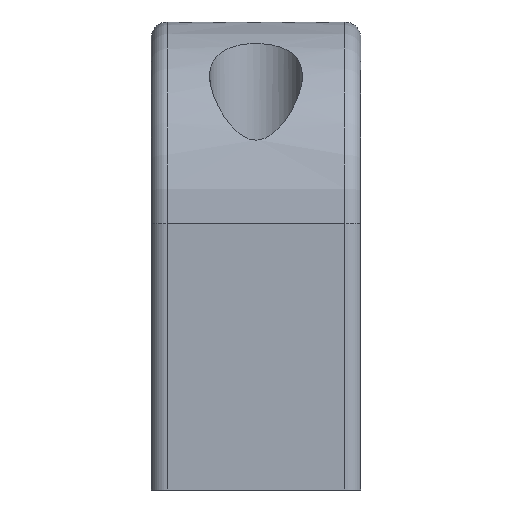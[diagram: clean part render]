
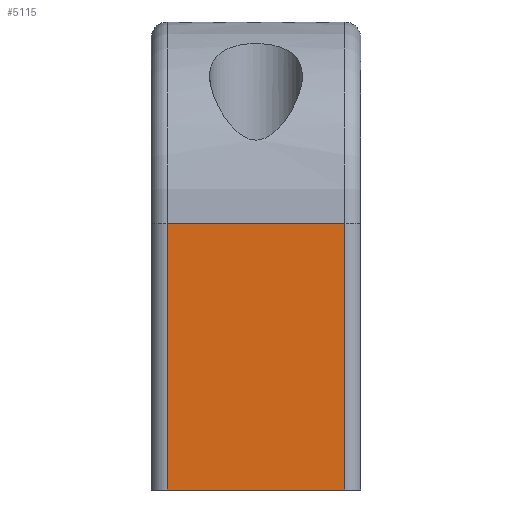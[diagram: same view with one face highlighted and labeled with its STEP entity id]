
A CAD part, front view. The second image highlights one B-rep face of the part: STEP entity #5115.
In plain terms, the highlighted planar face has unit normal (0, -1, 0).
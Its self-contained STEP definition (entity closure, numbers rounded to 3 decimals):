
#100 = VERTEX_POINT ( 'NONE', #4040 ) ;
#101 = VERTEX_POINT ( 'NONE', #4039 ) ;
#116 = VERTEX_POINT ( 'NONE', #4014 ) ;
#122 = VERTEX_POINT ( 'NONE', #4005 ) ;
#304 = DIRECTION ( 'NONE',  ( -1., 0., 0. ) ) ;
#306 = CARTESIAN_POINT ( 'NONE',  ( 13., -97.5, -25. ) ) ;
#493 = DIRECTION ( 'NONE',  ( 0., 0., -1. ) ) ;
#494 = CARTESIAN_POINT ( 'NONE',  ( 11., -97.5, -25. ) ) ;
#507 = DIRECTION ( 'NONE',  ( 0., 0., 1. ) ) ;
#509 = CARTESIAN_POINT ( 'NONE',  ( -11., -97.5, -25. ) ) ;
#532 = DIRECTION ( 'NONE',  ( -1., 0., 0. ) ) ;
#533 = CARTESIAN_POINT ( 'NONE',  ( 13., -97.5, -58. ) ) ;
#1033 = LINE ( 'NONE', #306, #1034 ) ;
#1034 = VECTOR ( 'NONE', #304, 1000. ) ;
#1060 = LINE ( 'NONE', #533, #1062 ) ;
#1062 = VECTOR ( 'NONE', #532, 1000. ) ;
#1067 = LINE ( 'NONE', #509, #1069 ) ;
#1068 = LINE ( 'NONE', #494, #1071 ) ;
#1069 = VECTOR ( 'NONE', #507, 1000. ) ;
#1071 = VECTOR ( 'NONE', #493, 1000. ) ;
#1246 = FACE_OUTER_BOUND ( 'NONE', #4469, .T. ) ;
#1448 = AXIS2_PLACEMENT_3D ( 'NONE', #2823, #2806, #2804 ) ;
#2804 = DIRECTION ( 'NONE',  ( 0., 0., -1. ) ) ;
#2806 = DIRECTION ( 'NONE',  ( 0., 1., 0. ) ) ;
#2816 = PLANE ( 'NONE',  #1448 ) ;
#2823 = CARTESIAN_POINT ( 'NONE',  ( 13., -97.5, -25. ) ) ;
#3238 = EDGE_CURVE ( 'NONE', #101, #100, #1033, .T. ) ;
#3264 = EDGE_CURVE ( 'NONE', #116, #122, #1060, .T. ) ;
#3270 = EDGE_CURVE ( 'NONE', #122, #100, #1067, .T. ) ;
#3271 = EDGE_CURVE ( 'NONE', #101, #116, #1068, .T. ) ;
#4005 = CARTESIAN_POINT ( 'NONE',  ( -11., -97.5, -58. ) ) ;
#4014 = CARTESIAN_POINT ( 'NONE',  ( 11., -97.5, -58. ) ) ;
#4039 = CARTESIAN_POINT ( 'NONE',  ( 11., -97.5, -25. ) ) ;
#4040 = CARTESIAN_POINT ( 'NONE',  ( -11., -97.5, -25. ) ) ;
#4245 = ORIENTED_EDGE ( 'NONE', *, *, #3238, .T. ) ;
#4246 = ORIENTED_EDGE ( 'NONE', *, *, #3270, .F. ) ;
#4247 = ORIENTED_EDGE ( 'NONE', *, *, #3264, .F. ) ;
#4248 = ORIENTED_EDGE ( 'NONE', *, *, #3271, .F. ) ;
#4469 = EDGE_LOOP ( 'NONE', ( #4245, #4246, #4247, #4248 ) ) ;
#5115 = ADVANCED_FACE ( 'NONE', ( #1246 ), #2816, .F. ) ;
